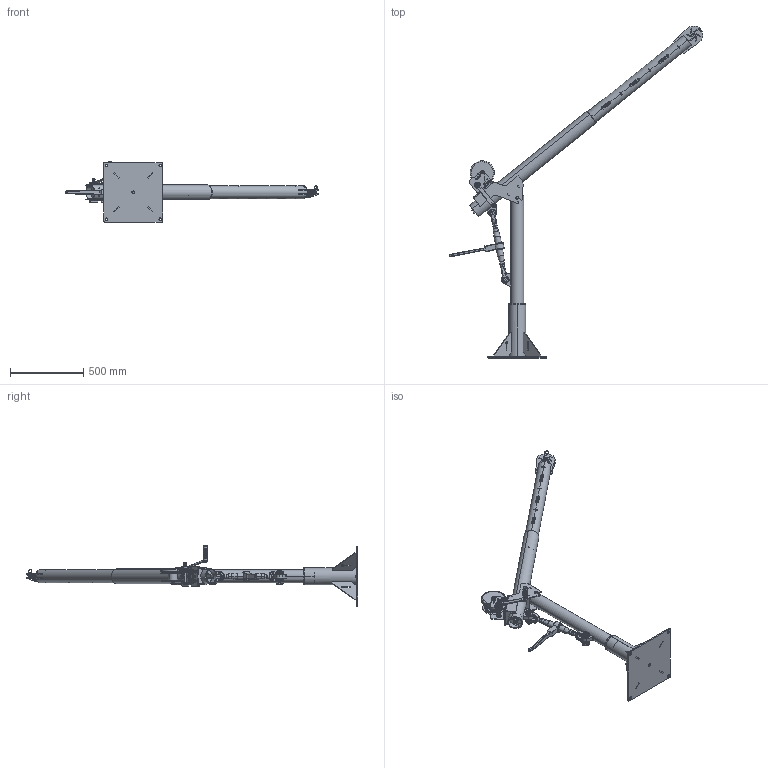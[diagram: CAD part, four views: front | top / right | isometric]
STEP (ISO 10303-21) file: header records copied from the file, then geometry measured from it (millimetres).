
FILE_DESCRIPTION (( 'STEP AP214' ), '1' );
FILE_NAME ('OZT1200DAV.STEP', '2022-06-30T19:56:30', ( '' ), ( '' ), 'SwSTEP 2.0', 'SolidWorks 2021', '' );
FILE_SCHEMA (( 'AUTOMOTIVE_DESIGN' ));
Length unit declared in the file: inch
Products named in the file (49): .375-16 Steel Hex Weld Nut_93560A160.STEP; TSD12016.STEP; TSD12008.STEP; TSD12015.STEP; TSD12500.STEP; TSD12300.STEP; DC10PC7250.STEP; OZT1200DAV; TSD12021.STEP; SD7012.STEP; TSD12220.STEP; DC10PC7000.STEP; TSD12102.STEP; TSD12004.STEP; TSD12014.STEP; TSD12020.STEP; DC10PC7210.STEP; TSD12230.STEP; .375 LOCK WASHER ZINC YELLOW_91104A031.STEP; SD7005.STEP; TSD12022.STEP; TSD12011.STEP; .375 X 1 HEX BOLT ZINC YELLOW-GRD 8_92620A624.STEP; TSD12007.STEP; TSD12018.STEP; TW10 CLEVIS ENDS.STEP; TSD12003.STEP; DRI-14.STEP; TSD12006.STEP; TSD12101.STEP; OZPED1.STEP; TSD12002.STEP; TSD12017.STEP; HANG-2.STEP; SD7004.STEP; TSD12100.STEP; DC10PC7100.STEP; .50-13 Steel Hex Weld Nut_93560A180.STEP; DLB1200A.STEP; TSD12001.STEP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
Assembly tree (69 placements, depth 5):
  OZT1200DAV
    TSD12300.STEP
      TSD12017.STEP
      TSD12018.STEP
      TSD12019.STEP
      TSD12022.STEP
    TSD12200.STEP
      TSD12210.STEP
        TSD12230.STEP
          TSD12020.STEP
          .50-13 Steel Hex Weld Nut_93560A180.STEP  x3
          .375-16 Steel Hex Weld Nut_93560A160.STEP  x4
          TSD12021.STEP  x2
        TSD12006.STEP
        TSD12013.STEP
        TSD12014.STEP
        TSD12015.STEP  x2
        TSD12016.STEP
      TSD12220.STEP
        TSD12007.STEP
    TSD12100.STEP
      TSD12101.STEP
        TSD12004.STEP
      TSD12002.STEP
      TSD12001.STEP  x2
      TSD12003.STEP
    OZPED1.STEP
      DC10PC7000.STEP
        DC10PC7210.STEP
        DC10PC7220.STEP
        DC10PC7250.STEP
        DC10PC7240.STEP  x4
      DC10PC7100.STEP
    TW10 10in RATCHET JACK.STEP
      TW10 BARREL.STEP
      TW10 CLEVIS ENDS.STEP  x2
    TSD12500.STEP
      TSD12008.STEP
      TSD12011.STEP
    DLB1200A.STEP
    SD7012.STEP
    TSD12102.STEP  x2
    DRI-14.STEP
    HANG-2.STEP  x3
    .375 X 1 HEX BOLT ZINC YELLOW-GRD 8_92620A624.STEP  x3
    .375 LOCK WASHER ZINC YELLOW_91104A031.STEP  x3
    .375 FLAT WASHER ZINC YELLOW_98026A031.STEP  x3
    SD7004.STEP
    SD7005.STEP
Bounding box: 1735.38 x 2271.81 x 410.78 mm (x, y, z)
Volume: 10771606.8 mm3; surface area: 3786994.3 mm2
Topology: 57 solids, 101 shells, 5235 faces, 14490 edges, 9488 vertices
Faces by surface type: cylinder 3101, plane 1328, bspline 410, cone 302, torus 94
Entity records: 303742 total; most frequent: CARTESIAN_POINT 206313, ORIENTED_EDGE 24650, EDGE_CURVE 12351, DIRECTION 12341, B_SPLINE_CURVE_WITH_KNOTS 9205, VERTEX_POINT 8118, AXIS2_PLACEMENT_3D 5318, EDGE_LOOP 4726
